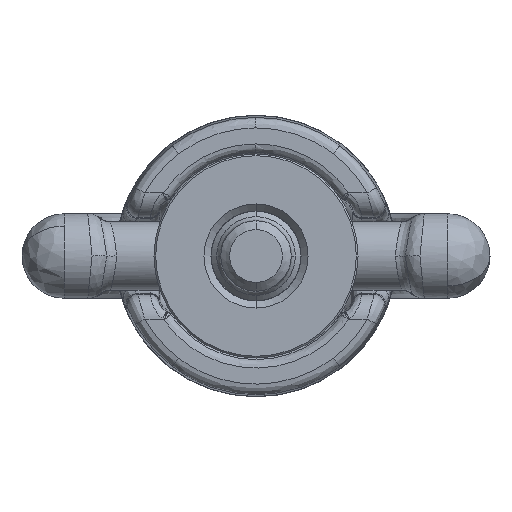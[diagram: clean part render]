
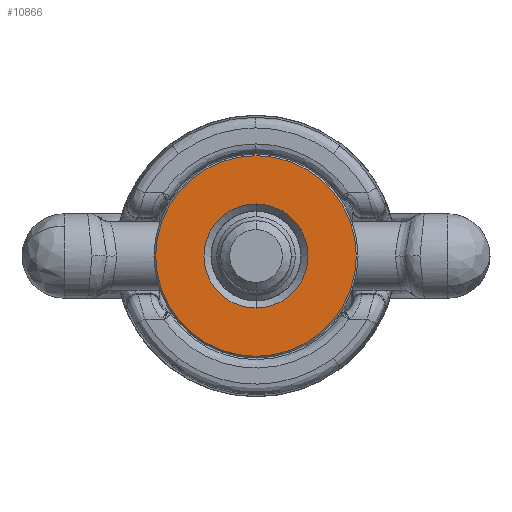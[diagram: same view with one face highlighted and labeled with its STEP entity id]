
A CAD part, front view. The second image highlights one B-rep face of the part: STEP entity #10866.
In plain terms, the highlighted planar face has unit normal (0, -1, 0).
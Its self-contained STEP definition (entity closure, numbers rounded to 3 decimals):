
#3679 = DIRECTION ( 'NONE',  ( 0., 0., -1. ) ) ;
#3709 = DIRECTION ( 'NONE',  ( 0., -1., 0. ) ) ;
#3711 = CARTESIAN_POINT ( 'NONE',  ( 0., 0., 0. ) ) ;
#3712 = AXIS2_PLACEMENT_3D ( 'NONE', #3711, #3709, #3679 ) ;
#3730 = CIRCLE ( 'NONE', #3712, 14.8 ) ;
#3771 = CARTESIAN_POINT ( 'NONE',  ( 0., 0., 28.5 ) ) ;
#4110 = DIRECTION ( 'NONE',  ( 0., 1., 0. ) ) ;
#4111 = CARTESIAN_POINT ( 'NONE',  ( 0., 0., 0. ) ) ;
#4112 = AXIS2_PLACEMENT_3D ( 'NONE', #4111, #4110, #4179 ) ;
#4113 = CIRCLE ( 'NONE', #4112, 28.5 ) ;
#4179 = DIRECTION ( 'NONE',  ( 0., 0., 1. ) ) ;
#10865 = EDGE_CURVE ( 'NONE', #24669, #24713, #29068, .T. ) ;
#10866 = ADVANCED_FACE ( 'NONE', ( #29039, #29035 ), #29047, .F. ) ;
#10867 = EDGE_LOOP ( 'NONE', ( #10882, #10903 ) ) ;
#10882 = ORIENTED_EDGE ( 'NONE', *, *, #10865, .F. ) ;
#10899 = ORIENTED_EDGE ( 'NONE', *, *, #24710, .F. ) ;
#10902 = EDGE_LOOP ( 'NONE', ( #10899, #10909 ) ) ;
#10903 = ORIENTED_EDGE ( 'NONE', *, *, #11452, .F. ) ;
#10909 = ORIENTED_EDGE ( 'NONE', *, *, #11352, .F. ) ;
#11352 = EDGE_CURVE ( 'NONE', #24668, #11473, #4113, .T. ) ;
#11452 = EDGE_CURVE ( 'NONE', #24713, #24669, #3730, .T. ) ;
#11473 = VERTEX_POINT ( 'NONE', #3771 ) ;
#16749 = CARTESIAN_POINT ( 'NONE',  ( 0., 0., -14.8 ) ) ;
#16750 = CARTESIAN_POINT ( 'NONE',  ( 0., 0., -28.5 ) ) ;
#16798 = CARTESIAN_POINT ( 'NONE',  ( 0., 0., 14.8 ) ) ;
#16799 = DIRECTION ( 'NONE',  ( 0., 0., 1. ) ) ;
#16800 = DIRECTION ( 'NONE',  ( 0., 1., 0. ) ) ;
#16801 = CARTESIAN_POINT ( 'NONE',  ( 0., 0., 0. ) ) ;
#16802 = AXIS2_PLACEMENT_3D ( 'NONE', #16801, #16800, #16799 ) ;
#16803 = CIRCLE ( 'NONE', #16802, 28.5 ) ;
#24668 = VERTEX_POINT ( 'NONE', #16750 ) ;
#24669 = VERTEX_POINT ( 'NONE', #16749 ) ;
#24710 = EDGE_CURVE ( 'NONE', #11473, #24668, #16803, .T. ) ;
#24713 = VERTEX_POINT ( 'NONE', #16798 ) ;
#29019 = DIRECTION ( 'NONE',  ( 0., -1., 0. ) ) ;
#29020 = DIRECTION ( 'NONE',  ( 0., 0., 1. ) ) ;
#29032 = CARTESIAN_POINT ( 'NONE',  ( 0., 0., 0. ) ) ;
#29033 = DIRECTION ( 'NONE',  ( 0., 1., 0. ) ) ;
#29034 = CARTESIAN_POINT ( 'NONE',  ( 0., 0., 0. ) ) ;
#29035 = FACE_OUTER_BOUND ( 'NONE', #10902, .T. ) ;
#29039 = FACE_BOUND ( 'NONE', #10867, .T. ) ;
#29047 = PLANE ( 'NONE',  #29067 ) ;
#29048 = DIRECTION ( 'NONE',  ( 0., 0., -1. ) ) ;
#29049 = AXIS2_PLACEMENT_3D ( 'NONE', #29032, #29019, #29048 ) ;
#29067 = AXIS2_PLACEMENT_3D ( 'NONE', #29034, #29033, #29020 ) ;
#29068 = CIRCLE ( 'NONE', #29049, 14.8 ) ;
